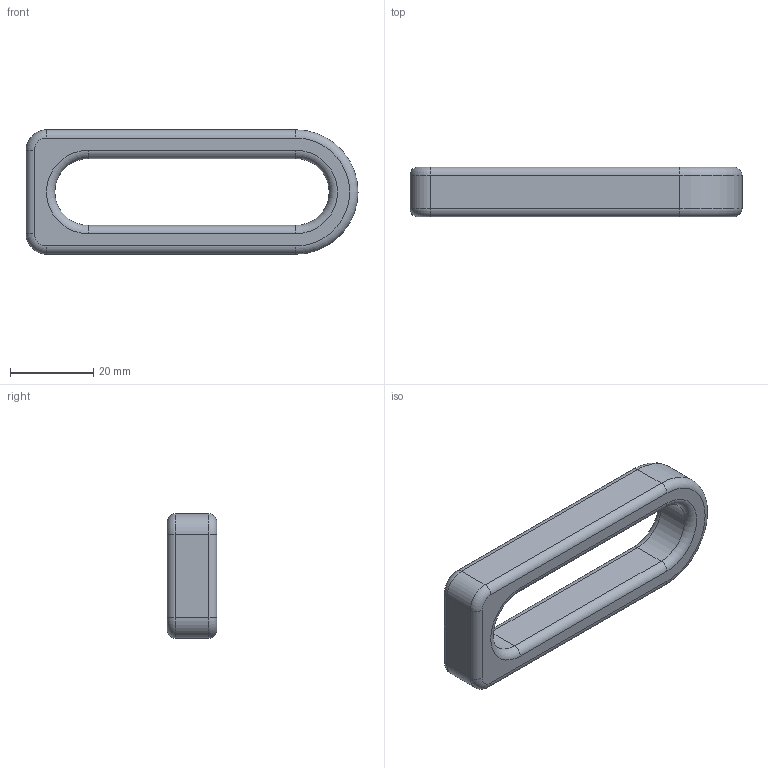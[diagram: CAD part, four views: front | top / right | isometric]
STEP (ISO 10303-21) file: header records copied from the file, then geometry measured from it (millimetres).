
FILE_DESCRIPTION (( 'STEP AP203' ), '1' );
FILE_NAME ('160410.STEP', '2020-07-09T07:32:58', ( '' ), ( '' ), 'SwSTEP 2.0', 'SolidWorks 2019', '' );
FILE_SCHEMA (( 'CONFIG_CONTROL_DESIGN' ));
Length unit declared in the file: millimetre
Products named in the file (1): 160410
Bounding box: 80 x 12 x 30 mm (x, y, z)
Volume: 14802.7 mm3; surface area: 6202.4 mm2
Topology: 1 solids, 1 shells, 32 faces, 70 edges, 40 vertices
Faces by surface type: cylinder 15, torus 10, plane 7
Entity records: 955 total; most frequent: DIRECTION 176, CARTESIAN_POINT 143, ORIENTED_EDGE 140, AXIS2_PLACEMENT_3D 73, EDGE_CURVE 70, VERTEX_POINT 40, CIRCLE 40, EDGE_LOOP 34
